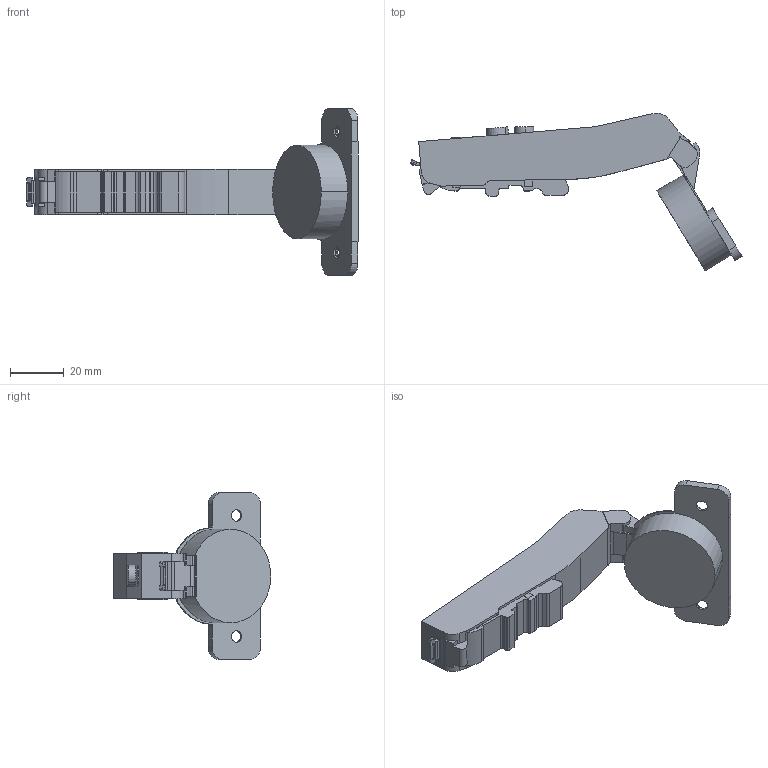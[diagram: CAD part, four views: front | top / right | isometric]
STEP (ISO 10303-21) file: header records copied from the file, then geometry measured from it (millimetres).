
FILE_DESCRIPTION (( 'STEP AP203' ), '1' );
FILE_NAME ('C81E875FAB DTC 3D OPEN.STEP', '2024-07-26T00:51:24', ( '微软用户' ), ( '微软中国' ), 'SwSTEP 2.0', 'SolidWorks 2021', '' );
FILE_SCHEMA (( 'CONFIG_CONTROL_DESIGN' ));
Length unit declared in the file: millimetre
Products named in the file (1): C81E875FAB DTC 3D OPEN
Bounding box: 123.58 x 58.62 x 62 mm (x, y, z)
Volume: 48308 mm3; surface area: 13915.2 mm2
Topology: 1 solids, 1 shells, 300 faces, 871 edges, 577 vertices
Faces by surface type: plane 133, cylinder 133, torus 22, cone 6, bspline 6
Entity records: 10282 total; most frequent: CARTESIAN_POINT 2222, ORIENTED_EDGE 1742, DIRECTION 1654, EDGE_CURVE 871, AXIS2_PLACEMENT_3D 582, VERTEX_POINT 577, VECTOR 490, LINE 490
